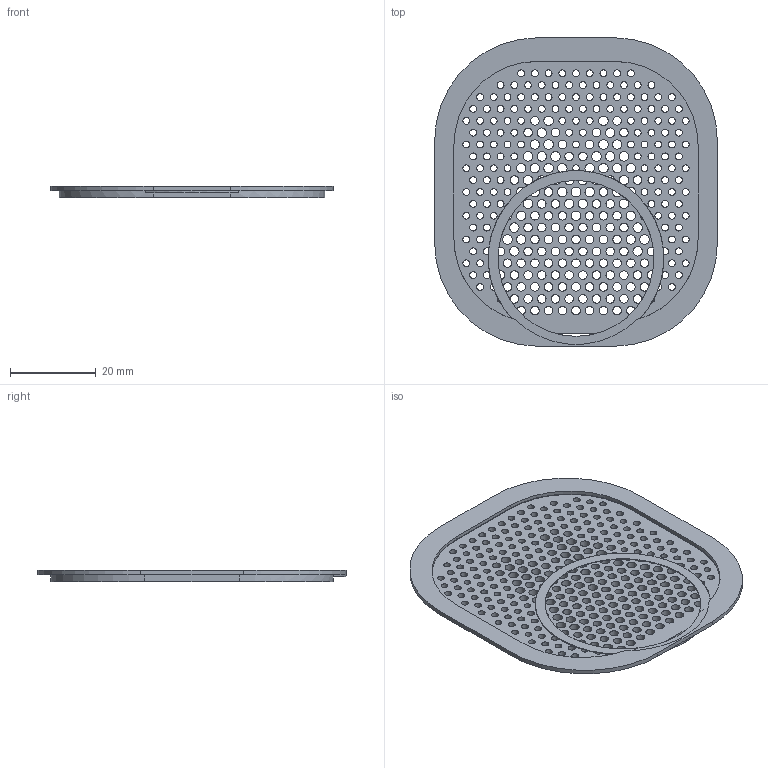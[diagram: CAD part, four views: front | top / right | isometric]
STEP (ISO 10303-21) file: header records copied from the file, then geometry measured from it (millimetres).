
FILE_DESCRIPTION(('Open CASCADE Model'),'2;1');
FILE_NAME('Open CASCADE Shape Model','2026-09-09T11:51:04',('Author'),( 'Open CASCADE'),'Open CASCADE STEP processor 7.7','Open CASCADE 7.7' ,'Unknown');
FILE_SCHEMA(('AUTOMOTIVE_DESIGN { 1 0 10303 214 1 1 1 1 }'));
Length unit declared in the file: millimetre
Products named in the file (1): Open CASCADE STEP translator 7.7 4
Bounding box: 66 x 72 x 2.6 mm (x, y, z)
Volume: 5585.4 mm3; surface area: 11008.4 mm2
Topology: 1 solids, 1 shells, 360 faces, 1076 edges, 717 vertices
Faces by surface type: cylinder 339, plane 21
Full cylindrical faces by diameter (mm): 1.6 x157, 2 x110, 2.2 x52, 36.4 x1
Entity records: 29755 total; most frequent: CARTESIAN_POINT 8224, DIRECTION 3969, ORIENTED_EDGE 2152, PCURVE 2152, DEFINITIONAL_REPRESENTATION 2152, LINE 1836, VECTOR 1836, EDGE_CURVE 1076
